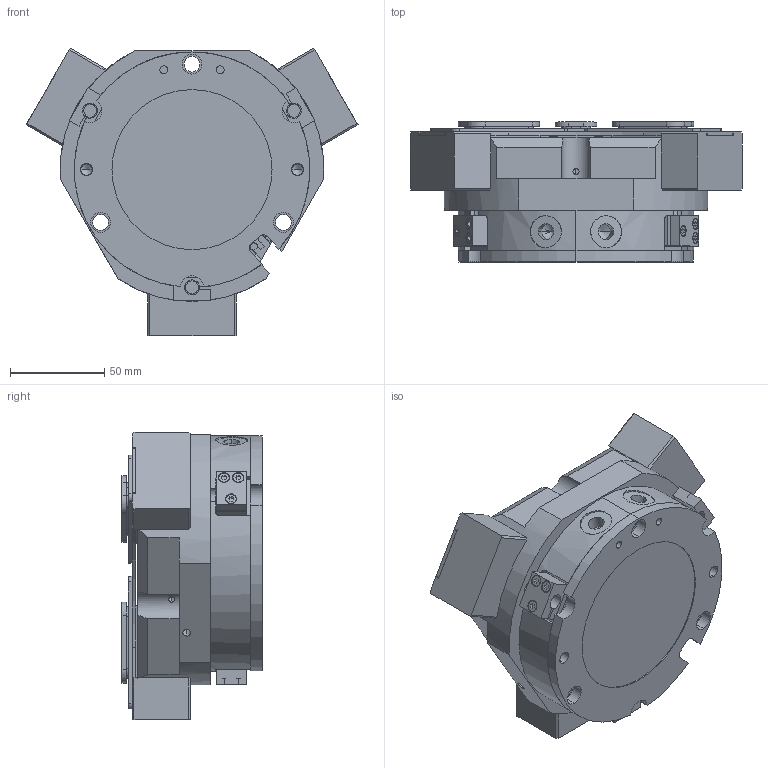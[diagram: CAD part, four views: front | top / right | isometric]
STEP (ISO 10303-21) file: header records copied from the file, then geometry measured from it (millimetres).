
FILE_DESCRIPTION (( 'STEP AP214' ), '1' );
FILE_NAME ('FCT 125A-1-SD.STEP', '2021-09-17T06:08:14', ( 'DEEP' ), ( 'Microsoft' ), 'SwSTEP 2.0', 'SolidWorks 2016', '' );
FILE_SCHEMA (( 'AUTOMOTIVE_DESIGN' ));
Length unit declared in the file: millimetre
Products named in the file (30): FCT 125A-1-005; FCT 125A-1 - SD-004_1; FCT 125A-1-003; FCT 125A-1-002; FCT 125A-1-001; FCT 125A-1-004; FCT 125A-1-SD; FCT125A-1-SD; FCT 125A-1 - SD-003_1; FCT 125A-1 - SD-002_1; FCT 125A-1 - SD-001_1
Assembly tree (20 placements, depth 3):
  FCT 125A-1-005
  FCT 125A-1 - SD-004_1
  FCT 125A-1-003
  FCT 125A-1-003
  FCT 125A-1-003
Bounding box: 176.28 x 74.4 x 152.67 mm (x, y, z)
Volume: 909900.6 mm3; surface area: 181269.3 mm2
Topology: 19 solids, 19 shells, 800 faces, 2067 edges, 1332 vertices
Faces by surface type: plane 415, cylinder 301, cone 84
Entity records: 19045 total; most frequent: CARTESIAN_POINT 3425, DIRECTION 2871, ORIENTED_EDGE 2666, EDGE_CURVE 1333, AXIS2_PLACEMENT_3D 1045, VERTEX_POINT 872, LINE 781, VECTOR 781
